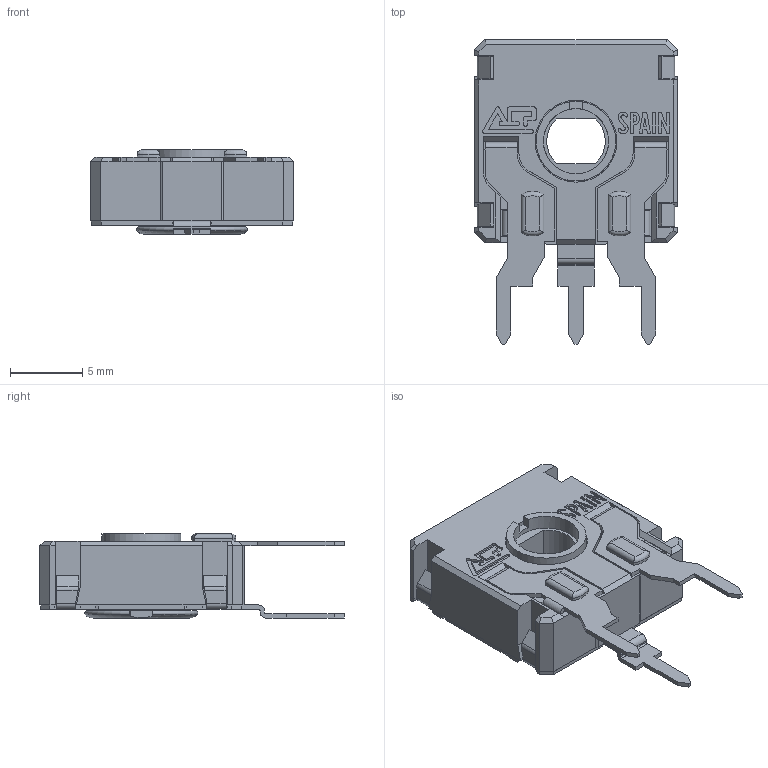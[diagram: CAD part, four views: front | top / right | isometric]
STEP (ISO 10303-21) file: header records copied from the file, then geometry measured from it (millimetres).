
FILE_DESCRIPTION(/* description */ (''),/* implementation_level */ '2;1');
FILE_NAME(/* name */ 'C:\Users\CEM\Desktop\ENVIAR\TRANSICION 3D CATALOGOS\CS14NH5.stp',/* time_stamp */ '2025-10-24T17:48:43+02:00',/* author */ ('CEM'),/* organization */ (''),/* preprocessor_version */ 'ST-DEVELOPER v17',/* originating_system */ 'Autodesk Inventor 2018',/* authorisation */ '');
FILE_SCHEMA (('AUTOMOTIVE_DESIGN { 1 0 10303 214 3 1 1 }'));
Length unit declared in the file: millimetre
Products named in the file (1): CS14NH5
Bounding box: 14 x 21 x 5.8 mm (x, y, z)
Volume: 547.6 mm3; surface area: 1578.4 mm2
Topology: 1 solids, 3 shells, 702 faces, 1972 edges, 1273 vertices
Faces by surface type: plane 538, cylinder 130, cone 15, bspline 10, torus 9
Full cylindrical faces by diameter (mm): 4.5 x1, 5.5 x1, 5.65 x1, 6.87 x1
Entity records: 23389 total; most frequent: CARTESIAN_POINT 4375, ORIENTED_EDGE 3944, DIRECTION 3660, EDGE_CURVE 1972, LINE 1560, VECTOR 1560, VERTEX_POINT 1273, AXIS2_PLACEMENT_3D 1050
